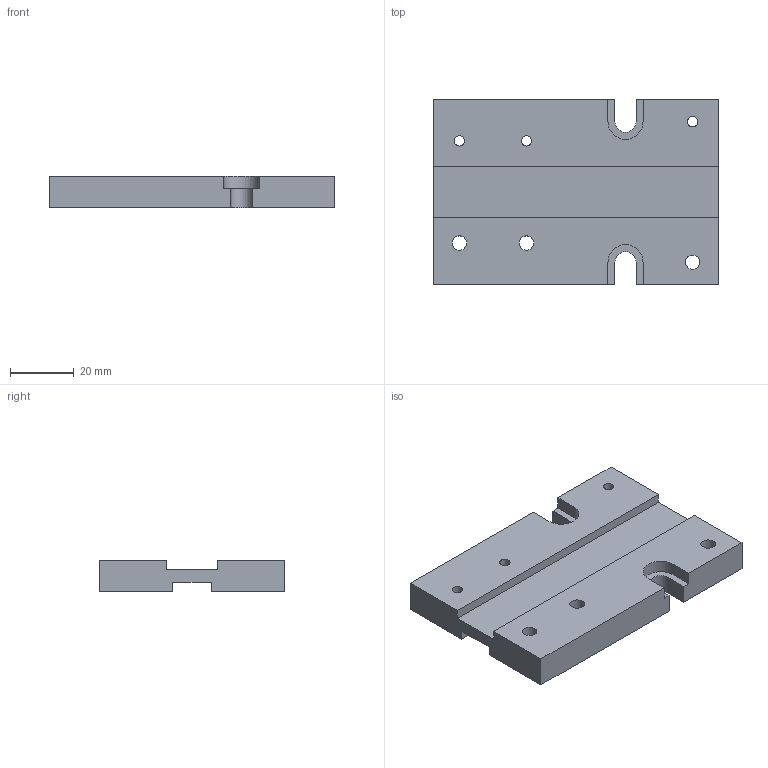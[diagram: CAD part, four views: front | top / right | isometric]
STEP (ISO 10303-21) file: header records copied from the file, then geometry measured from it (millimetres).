
FILE_DESCRIPTION(/* description */ (''),/* implementation_level */ '2;1');
FILE_NAME(/* name */ 'C:\Users\101654789\Desktop\700505E1008\부품1.stp',/* time_stamp */ '2020-05-16T10:32:53+09:00',/* author */ ('101654789'),/* organization */ (''),/* preprocessor_version */ 'ST-DEVELOPER v15.6',/* originating_system */ 'Autodesk Inventor 2015',/* authorisation */ '');
FILE_SCHEMA (('AUTOMOTIVE_DESIGN { 1 0 10303 214 3 1 1 }'));
Length unit declared in the file: millimetre
Products named in the file (1): 부품1
Bounding box: 89 x 58 x 10 mm (x, y, z)
Volume: 41209.8 mm3; surface area: 15016.1 mm2
Topology: 1 solids, 1 shells, 42 faces, 114 edges, 77 vertices
Faces by surface type: plane 29, cylinder 13
Full cylindrical faces by diameter (mm): 3.242 x3, 4.5 x3, 8 x3
Entity records: 1304 total; most frequent: CARTESIAN_POINT 219, DIRECTION 214, ORIENTED_EDGE 204, EDGE_CURVE 102, LINE 76, VECTOR 76, VERTEX_POINT 74, AXIS2_PLACEMENT_3D 69
